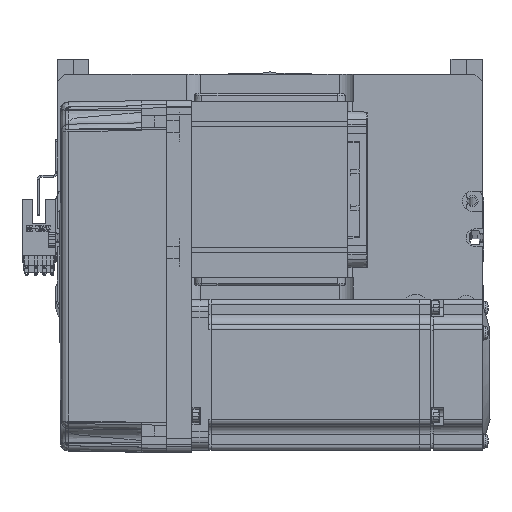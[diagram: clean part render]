
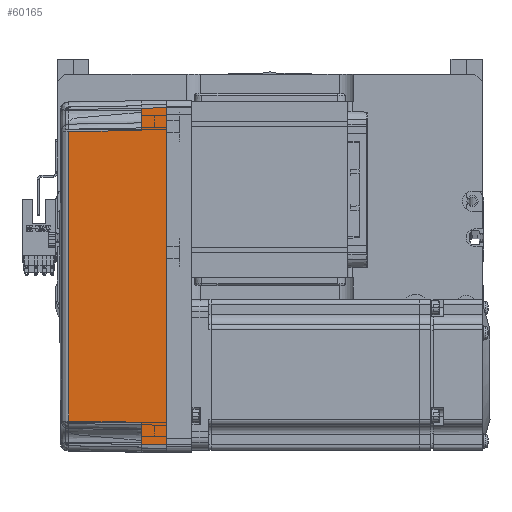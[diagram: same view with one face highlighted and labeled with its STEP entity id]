
A CAD part, top view. The second image highlights one B-rep face of the part: STEP entity #60165.
In plain terms, the highlighted planar face has unit normal (-0.018, 0, 1) as drawn and (0, -1, 0.017) by its records, which use the part's own axes.
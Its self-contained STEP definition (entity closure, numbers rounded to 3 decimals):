
#2558 = CARTESIAN_POINT ( 'NONE',  ( -67., -36., 0. ) ) ;
#2891 = VERTEX_POINT ( 'NONE', #23430 ) ;
#3641 = VERTEX_POINT ( 'NONE', #36890 ) ;
#4440 = LINE ( 'NONE', #34755, #17160 ) ;
#4846 = VECTOR ( 'NONE', #29018, 1000. ) ;
#4959 = CARTESIAN_POINT ( 'NONE',  ( 70., -35.825, 10. ) ) ;
#5331 = EDGE_CURVE ( 'NONE', #3641, #13571, #56309, .T. ) ;
#5390 = EDGE_CURVE ( 'NONE', #41363, #61527, #4440, .T. ) ;
#10114 = EDGE_CURVE ( 'NONE', #2891, #42256, #10348, .T. ) ;
#10348 = LINE ( 'NONE', #10937, #51859 ) ;
#10937 = CARTESIAN_POINT ( 'NONE',  ( 70., -35.825, 10. ) ) ;
#11417 = PLANE ( 'NONE',  #65426 ) ;
#13133 = EDGE_CURVE ( 'NONE', #41363, #2891, #17849, .T. ) ;
#13571 = VERTEX_POINT ( 'NONE', #53805 ) ;
#14293 = EDGE_CURVE ( 'NONE', #42256, #51877, #22464, .T. ) ;
#15416 = DIRECTION ( 'NONE',  ( -1., 0., 0. ) ) ;
#17160 = VECTOR ( 'NONE', #50146, 1000. ) ;
#17162 = CARTESIAN_POINT ( 'NONE',  ( 67., -36., 0. ) ) ;
#17849 = LINE ( 'NONE', #17162, #36986 ) ;
#18317 = ORIENTED_EDGE ( 'NONE', *, *, #52600, .T. ) ;
#18964 = CARTESIAN_POINT ( 'NONE',  ( 58., -35.825, 10. ) ) ;
#19157 = CARTESIAN_POINT ( 'NONE',  ( 67., -36., 0. ) ) ;
#20703 = VERTEX_POINT ( 'NONE', #35444 ) ;
#21708 = CARTESIAN_POINT ( 'NONE',  ( 70., -36., 0. ) ) ;
#22464 = LINE ( 'NONE', #18964, #4846 ) ;
#23430 = CARTESIAN_POINT ( 'NONE',  ( 66.826, -35.825, 10. ) ) ;
#26714 = VECTOR ( 'NONE', #54584, 1000. ) ;
#27282 = DIRECTION ( 'NONE',  ( 0., -1., 0.017 ) ) ;
#28556 = CARTESIAN_POINT ( 'NONE',  ( -57.495, -35.32, 38.985 ) ) ;
#29018 = DIRECTION ( 'NONE',  ( -0.017, 0.017, 1. ) ) ;
#29540 = EDGE_LOOP ( 'NONE', ( #43028, #52416, #43072, #55941, #39849, #18317, #34164, #57476 ) ) ;
#30528 = FACE_OUTER_BOUND ( 'NONE', #29540, .T. ) ;
#34164 = ORIENTED_EDGE ( 'NONE', *, *, #65288, .F. ) ;
#34755 = CARTESIAN_POINT ( 'NONE',  ( 0., -36., 0. ) ) ;
#35444 = CARTESIAN_POINT ( 'NONE',  ( -66.826, -35.825, 10. ) ) ;
#36890 = CARTESIAN_POINT ( 'NONE',  ( -57.495, -35.32, 38.985 ) ) ;
#36986 = VECTOR ( 'NONE', #63164, 1000. ) ;
#37136 = VECTOR ( 'NONE', #49923, 1000. ) ;
#38606 = CARTESIAN_POINT ( 'NONE',  ( -19.165, -35.316, 39.181 ) ) ;
#39849 = ORIENTED_EDGE ( 'NONE', *, *, #5331, .T. ) ;
#40187 = B_SPLINE_CURVE_WITH_KNOTS ( 'NONE', 3,
 ( #48873, #64037, #38606, #28556 ),
 .UNSPECIFIED., .F., .F.,
 ( 4, 4 ),
 ( 0., 1. ),
 .UNSPECIFIED. ) ;
#40338 = LINE ( 'NONE', #47920, #26714 ) ;
#41363 = VERTEX_POINT ( 'NONE', #19157 ) ;
#41970 = CARTESIAN_POINT ( 'NONE',  ( 57.495, -35.32, 38.985 ) ) ;
#42256 = VERTEX_POINT ( 'NONE', #54516 ) ;
#43028 = ORIENTED_EDGE ( 'NONE', *, *, #13133, .T. ) ;
#43072 = ORIENTED_EDGE ( 'NONE', *, *, #14293, .T. ) ;
#43432 = LINE ( 'NONE', #4959, #45831 ) ;
#45831 = VECTOR ( 'NONE', #15416, 1000. ) ;
#47920 = CARTESIAN_POINT ( 'NONE',  ( -66.959, -35.958, 2.39 ) ) ;
#48108 = EDGE_CURVE ( 'NONE', #51877, #3641, #40187, .T. ) ;
#48873 = CARTESIAN_POINT ( 'NONE',  ( 57.495, -35.32, 38.985 ) ) ;
#49923 = DIRECTION ( 'NONE',  ( -0.017, -0.017, -1. ) ) ;
#50146 = DIRECTION ( 'NONE',  ( -1., 0., 0. ) ) ;
#51859 = VECTOR ( 'NONE', #62082, 1000. ) ;
#51877 = VERTEX_POINT ( 'NONE', #41970 ) ;
#52060 = DIRECTION ( 'NONE',  ( 0., -0.017, -1. ) ) ;
#52416 = ORIENTED_EDGE ( 'NONE', *, *, #10114, .T. ) ;
#52600 = EDGE_CURVE ( 'NONE', #13571, #20703, #43432, .T. ) ;
#53805 = CARTESIAN_POINT ( 'NONE',  ( -58., -35.825, 10. ) ) ;
#54516 = CARTESIAN_POINT ( 'NONE',  ( 58., -35.825, 10. ) ) ;
#54584 = DIRECTION ( 'NONE',  ( 0.017, 0.017, 1. ) ) ;
#55941 = ORIENTED_EDGE ( 'NONE', *, *, #48108, .T. ) ;
#56309 = LINE ( 'NONE', #59793, #37136 ) ;
#57476 = ORIENTED_EDGE ( 'NONE', *, *, #5390, .F. ) ;
#59793 = CARTESIAN_POINT ( 'NONE',  ( -57.495, -35.32, 38.985 ) ) ;
#60165 = ADVANCED_FACE ( 'NONE', ( #30528 ), #11417, .T. ) ;
#61527 = VERTEX_POINT ( 'NONE', #2558 ) ;
#62082 = DIRECTION ( 'NONE',  ( -1., 0., 0. ) ) ;
#63164 = DIRECTION ( 'NONE',  ( -0.017, 0.017, 1. ) ) ;
#64037 = CARTESIAN_POINT ( 'NONE',  ( 19.165, -35.316, 39.181 ) ) ;
#65288 = EDGE_CURVE ( 'NONE', #61527, #20703, #40338, .T. ) ;
#65426 = AXIS2_PLACEMENT_3D ( 'NONE', #21708, #27282, #52060 ) ;
